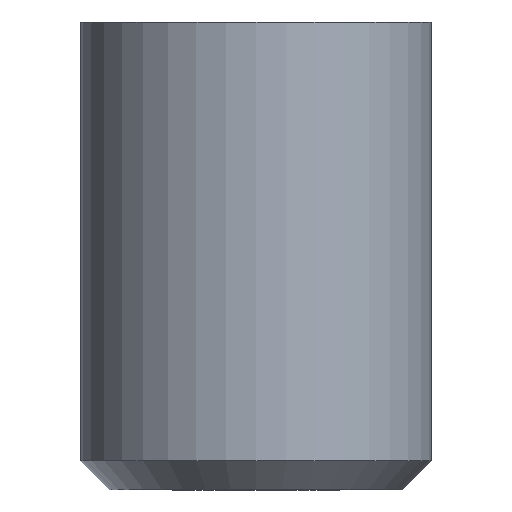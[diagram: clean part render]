
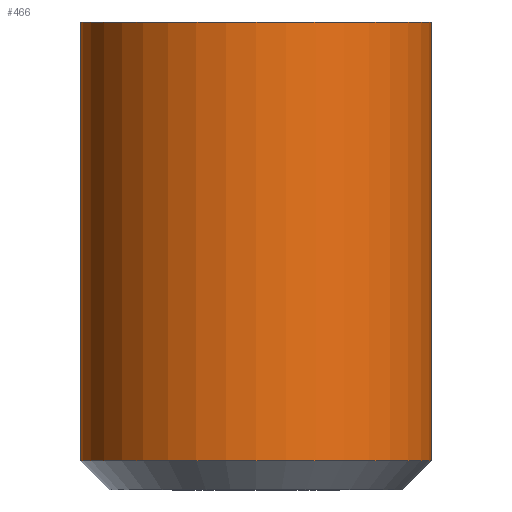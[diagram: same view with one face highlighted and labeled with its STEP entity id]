
A CAD part, front view. The second image highlights one B-rep face of the part: STEP entity #466.
In plain terms, the highlighted cylindrical face has radius 4.763 mm (diameter 9.525 mm), a partial arc.
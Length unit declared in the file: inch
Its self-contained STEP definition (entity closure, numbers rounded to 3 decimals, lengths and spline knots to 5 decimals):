
#1 = VERTEX_POINT ( 'NONE', #166 ) ;
#22 = DIRECTION ( 'NONE',  ( 1., 0., 0. ) ) ;
#30 = CARTESIAN_POINT ( 'NONE',  ( 0.37203, 0.0061, 0.03125 ) ) ;
#82 = ORIENTED_EDGE ( 'NONE', *, *, #485, .F. ) ;
#87 = EDGE_CURVE ( 'NONE', #1, #285, #613, .T. ) ;
#93 = DIRECTION ( 'NONE',  ( 0., 0., -1. ) ) ;
#102 = VERTEX_POINT ( 'NONE', #139 ) ;
#109 = EDGE_CURVE ( 'NONE', #102, #285, #122, .T. ) ;
#112 = VERTEX_POINT ( 'NONE', #479 ) ;
#116 = AXIS2_PLACEMENT_3D ( 'NONE', #490, #255, #22 ) ;
#122 = CIRCLE ( 'NONE', #177, 0.1875 ) ;
#139 = CARTESIAN_POINT ( 'NONE',  ( -0.00297, 0.0061, 0.03125 ) ) ;
#146 = CARTESIAN_POINT ( 'NONE',  ( 0.37203, 0.0061, 0.5 ) ) ;
#166 = CARTESIAN_POINT ( 'NONE',  ( 0.37203, 0.0061, 0.5 ) ) ;
#177 = AXIS2_PLACEMENT_3D ( 'NONE', #286, #193, #452 ) ;
#193 = DIRECTION ( 'NONE',  ( 0., 0., 1. ) ) ;
#220 = CARTESIAN_POINT ( 'NONE',  ( -0.00297, 0.0061, 0.5 ) ) ;
#221 = VECTOR ( 'NONE', #481, 39.37008 ) ;
#226 = CIRCLE ( 'NONE', #116, 0.1875 ) ;
#237 = ORIENTED_EDGE ( 'NONE', *, *, #338, .T. ) ;
#255 = DIRECTION ( 'NONE',  ( 0., 0., 1. ) ) ;
#259 = LINE ( 'NONE', #220, #398 ) ;
#273 = DIRECTION ( 'NONE',  ( 0., 0., -1. ) ) ;
#285 = VERTEX_POINT ( 'NONE', #30 ) ;
#286 = CARTESIAN_POINT ( 'NONE',  ( 0.18453, 0.0061, 0.03125 ) ) ;
#338 = EDGE_CURVE ( 'NONE', #112, #102, #259, .T. ) ;
#373 = ORIENTED_EDGE ( 'NONE', *, *, #87, .F. ) ;
#398 = VECTOR ( 'NONE', #273, 39.37008 ) ;
#416 = CYLINDRICAL_SURFACE ( 'NONE', #425, 0.1875 ) ;
#425 = AXIS2_PLACEMENT_3D ( 'NONE', #568, #93, #432 ) ;
#432 = DIRECTION ( 'NONE',  ( -1., 0., 0. ) ) ;
#440 = FACE_OUTER_BOUND ( 'NONE', #476, .T. ) ;
#452 = DIRECTION ( 'NONE',  ( 1., 0., 0. ) ) ;
#466 = ADVANCED_FACE ( 'NONE', ( #440 ), #416, .T. ) ;
#476 = EDGE_LOOP ( 'NONE', ( #373, #82, #237, #624 ) ) ;
#479 = CARTESIAN_POINT ( 'NONE',  ( -0.00297, 0.0061, 0.5 ) ) ;
#481 = DIRECTION ( 'NONE',  ( 0., 0., -1. ) ) ;
#485 = EDGE_CURVE ( 'NONE', #112, #1, #226, .T. ) ;
#490 = CARTESIAN_POINT ( 'NONE',  ( 0.18453, 0.0061, 0.5 ) ) ;
#568 = CARTESIAN_POINT ( 'NONE',  ( 0.18453, 0.0061, 0.5 ) ) ;
#613 = LINE ( 'NONE', #146, #221 ) ;
#624 = ORIENTED_EDGE ( 'NONE', *, *, #109, .T. ) ;
